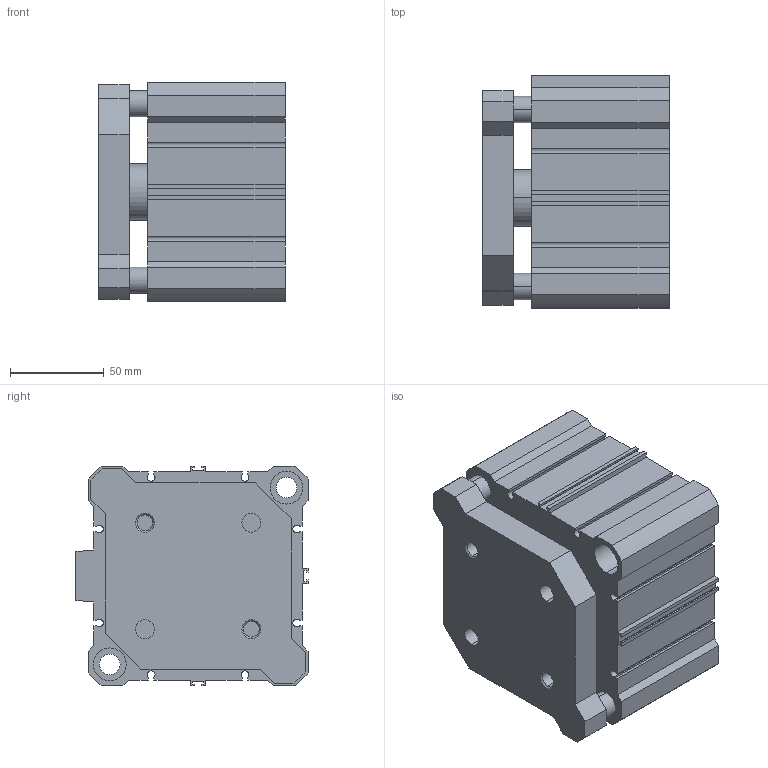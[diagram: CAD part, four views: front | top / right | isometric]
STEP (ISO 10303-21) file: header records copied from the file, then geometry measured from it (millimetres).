
FILE_DESCRIPTION (( 'STEP AP203' ), '1' );
FILE_NAME ('CCMG100-10.STEP', '2020-04-01T18:53:14', ( '' ), ( '' ), 'SwSTEP 2.0', 'SolidWorks 2019', '' );
FILE_SCHEMA (( 'CONFIG_CONTROL_DESIGN' ));
Length unit declared in the file: millimetre
Products named in the file (1): CCMG100-10
Bounding box: 99 x 123.5 x 117 mm (x, y, z)
Volume: 1003853.7 mm3; surface area: 155527.6 mm2
Topology: 2 solids, 2 shells, 194 faces, 518 edges, 338 vertices
Faces by surface type: plane 114, cylinder 64, cone 16
Entity records: 6105 total; most frequent: CARTESIAN_POINT 1047, DIRECTION 1044, ORIENTED_EDGE 1028, EDGE_CURVE 514, VECTOR 374, LINE 374, VERTEX_POINT 338, AXIS2_PLACEMENT_3D 335
